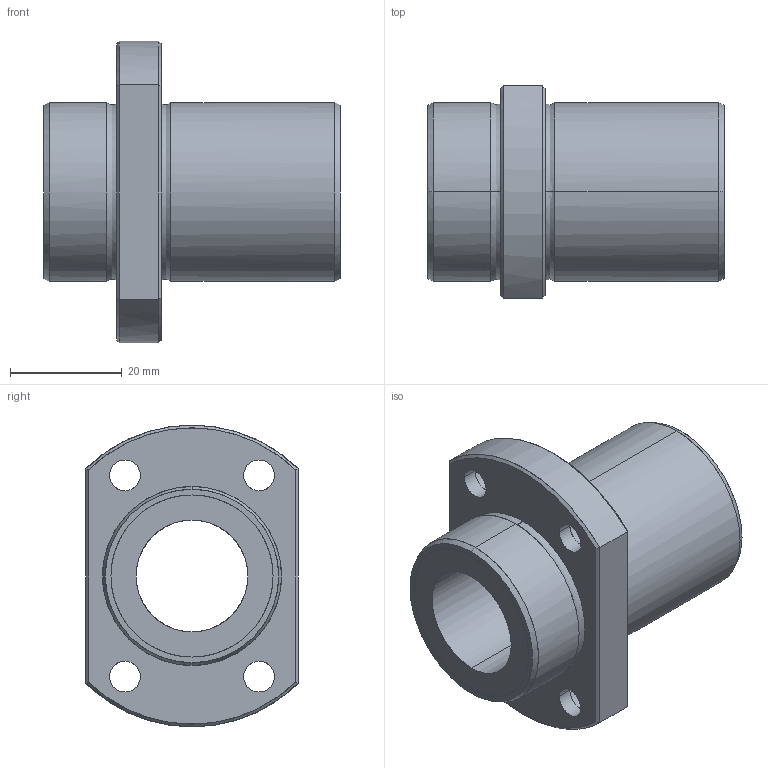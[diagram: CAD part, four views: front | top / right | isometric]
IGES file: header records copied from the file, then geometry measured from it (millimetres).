
Global section: file name: No Iges File Name specified; native system: AutoDesk Inventor R11.0; preprocessor: AutoDesk Inventor Iges Exporter R11.0; author: No Author specified; organization: No Organization specified; date: 20170921.134858; units: millimetre
Bounding box: 53 x 38 x 54 mm (x, y, z)
Surface area: 12741.9 mm2 (no closed solid volume)
Topology: 0 solids, 0 shells, 57 faces, 368 edges, 368 vertices
Faces by surface type: bspline 57
